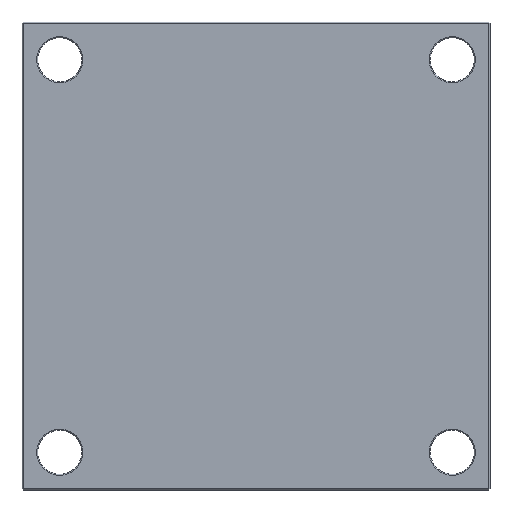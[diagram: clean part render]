
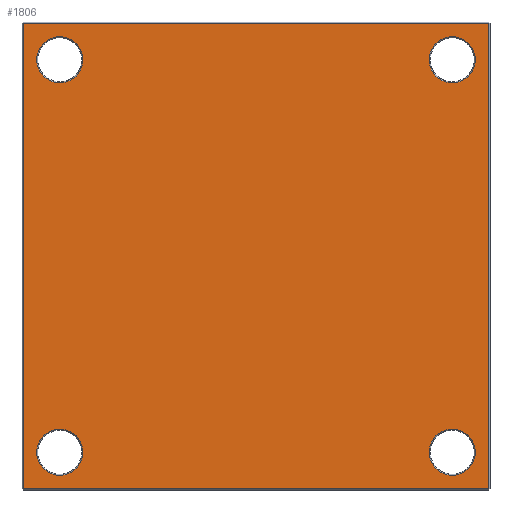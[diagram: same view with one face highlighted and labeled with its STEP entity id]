
A CAD part, front view. The second image highlights one B-rep face of the part: STEP entity #1806.
In plain terms, the highlighted planar face has unit normal (0, -1, 0).
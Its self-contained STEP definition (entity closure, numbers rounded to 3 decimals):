
#64 = AXIS2_PLACEMENT_3D ( 'NONE', #862, #621, #852 ) ;
#83 = EDGE_CURVE ( 'NONE', #1484, #1033, #1691, .T. ) ;
#97 = VERTEX_POINT ( 'NONE', #649 ) ;
#146 = VERTEX_POINT ( 'NONE', #657 ) ;
#198 = DIRECTION ( 'NONE',  ( -1., 0., 0. ) ) ;
#202 = FACE_OUTER_BOUND ( 'NONE', #1394, .T. ) ;
#252 = FACE_BOUND ( 'NONE', #1714, .T. ) ;
#269 = AXIS2_PLACEMENT_3D ( 'NONE', #1925, #848, #1846 ) ;
#271 = VECTOR ( 'NONE', #198, 1000. ) ;
#274 = PLANE ( 'NONE',  #868 ) ;
#289 = CARTESIAN_POINT ( 'NONE',  ( 187., 0., 209. ) ) ;
#301 = DIRECTION ( 'NONE',  ( 1., 0., 0. ) ) ;
#327 = LINE ( 'NONE', #1916, #271 ) ;
#331 = FACE_BOUND ( 'NONE', #543, .T. ) ;
#377 = CARTESIAN_POINT ( 'NONE',  ( 222., 0., 222. ) ) ;
#426 = LINE ( 'NONE', #1108, #474 ) ;
#458 = VERTEX_POINT ( 'NONE', #2173 ) ;
#474 = VECTOR ( 'NONE', #301, 1000. ) ;
#481 = DIRECTION ( 'NONE',  ( 0., 1., 0. ) ) ;
#518 = AXIS2_PLACEMENT_3D ( 'NONE', #978, #1017, #1182 ) ;
#521 = FACE_BOUND ( 'NONE', #2125, .T. ) ;
#543 = EDGE_LOOP ( 'NONE', ( #1034, #850 ) ) ;
#545 = VERTEX_POINT ( 'NONE', #1193 ) ;
#550 = FACE_BOUND ( 'NONE', #1114, .T. ) ;
#570 = CIRCLE ( 'NONE', #885, 22. ) ;
#615 = CARTESIAN_POINT ( 'NONE',  ( 0., 0., 0. ) ) ;
#621 = DIRECTION ( 'NONE',  ( 0., 1., 0. ) ) ;
#625 = ORIENTED_EDGE ( 'NONE', *, *, #1703, .T. ) ;
#649 = CARTESIAN_POINT ( 'NONE',  ( -187., 0., -209. ) ) ;
#657 = CARTESIAN_POINT ( 'NONE',  ( 187., 0., 165. ) ) ;
#668 = ORIENTED_EDGE ( 'NONE', *, *, #1999, .T. ) ;
#684 = AXIS2_PLACEMENT_3D ( 'NONE', #891, #481, #1127 ) ;
#715 = LINE ( 'NONE', #1505, #1063 ) ;
#749 = CIRCLE ( 'NONE', #684, 22. ) ;
#764 = VERTEX_POINT ( 'NONE', #377 ) ;
#778 = CIRCLE ( 'NONE', #64, 22. ) ;
#785 = DIRECTION ( 'NONE',  ( 0., 1., 0. ) ) ;
#848 = DIRECTION ( 'NONE',  ( 0., 1., 0. ) ) ;
#850 = ORIENTED_EDGE ( 'NONE', *, *, #1515, .T. ) ;
#852 = DIRECTION ( 'NONE',  ( 0., 0., 1. ) ) ;
#862 = CARTESIAN_POINT ( 'NONE',  ( -187., 0., -187. ) ) ;
#868 = AXIS2_PLACEMENT_3D ( 'NONE', #615, #1311, #2046 ) ;
#885 = AXIS2_PLACEMENT_3D ( 'NONE', #998, #785, #1174 ) ;
#891 = CARTESIAN_POINT ( 'NONE',  ( -187., 0., 187. ) ) ;
#978 = CARTESIAN_POINT ( 'NONE',  ( 187., 0., -187. ) ) ;
#998 = CARTESIAN_POINT ( 'NONE',  ( 187., 0., 187. ) ) ;
#1008 = CARTESIAN_POINT ( 'NONE',  ( 187., 0., -165. ) ) ;
#1017 = DIRECTION ( 'NONE',  ( 0., 1., 0. ) ) ;
#1021 = ORIENTED_EDGE ( 'NONE', *, *, #1991, .T. ) ;
#1033 = VERTEX_POINT ( 'NONE', #1730 ) ;
#1034 = ORIENTED_EDGE ( 'NONE', *, *, #1814, .T. ) ;
#1049 = EDGE_CURVE ( 'NONE', #97, #1808, #1102, .T. ) ;
#1063 = VECTOR ( 'NONE', #1634, 1000. ) ;
#1066 = CARTESIAN_POINT ( 'NONE',  ( -187., 0., 165. ) ) ;
#1102 = CIRCLE ( 'NONE', #269, 22. ) ;
#1108 = CARTESIAN_POINT ( 'NONE',  ( 0., 0., -222. ) ) ;
#1114 = EDGE_LOOP ( 'NONE', ( #668, #1329 ) ) ;
#1124 = VERTEX_POINT ( 'NONE', #289 ) ;
#1127 = DIRECTION ( 'NONE',  ( 0., 0., 1. ) ) ;
#1128 = ORIENTED_EDGE ( 'NONE', *, *, #83, .T. ) ;
#1136 = ORIENTED_EDGE ( 'NONE', *, *, #1692, .T. ) ;
#1144 = AXIS2_PLACEMENT_3D ( 'NONE', #1726, #1735, #1752 ) ;
#1174 = DIRECTION ( 'NONE',  ( 0., 0., 1. ) ) ;
#1176 = CIRCLE ( 'NONE', #1467, 22. ) ;
#1182 = DIRECTION ( 'NONE',  ( 0., 0., 1. ) ) ;
#1193 = CARTESIAN_POINT ( 'NONE',  ( 222., 0., -222. ) ) ;
#1207 = CARTESIAN_POINT ( 'NONE',  ( 187., 0., -209. ) ) ;
#1286 = AXIS2_PLACEMENT_3D ( 'NONE', #1471, #1474, #1479 ) ;
#1290 = CIRCLE ( 'NONE', #1144, 22. ) ;
#1311 = DIRECTION ( 'NONE',  ( 0., 1., 0. ) ) ;
#1329 = ORIENTED_EDGE ( 'NONE', *, *, #1567, .T. ) ;
#1365 = VERTEX_POINT ( 'NONE', #1768 ) ;
#1394 = EDGE_LOOP ( 'NONE', ( #1021, #625, #2076, #1619 ) ) ;
#1467 = AXIS2_PLACEMENT_3D ( 'NONE', #2105, #2079, #2099 ) ;
#1471 = CARTESIAN_POINT ( 'NONE',  ( -187., 0., 187. ) ) ;
#1474 = DIRECTION ( 'NONE',  ( 0., 1., 0. ) ) ;
#1479 = DIRECTION ( 'NONE',  ( 0., 0., 1. ) ) ;
#1484 = VERTEX_POINT ( 'NONE', #1066 ) ;
#1498 = VERTEX_POINT ( 'NONE', #1207 ) ;
#1504 = EDGE_CURVE ( 'NONE', #1808, #97, #778, .T. ) ;
#1505 = CARTESIAN_POINT ( 'NONE',  ( -222., 0., 0. ) ) ;
#1515 = EDGE_CURVE ( 'NONE', #1124, #146, #1176, .T. ) ;
#1529 = VECTOR ( 'NONE', #2162, 1000. ) ;
#1561 = EDGE_CURVE ( 'NONE', #1365, #458, #715, .T. ) ;
#1567 = EDGE_CURVE ( 'NONE', #1640, #1498, #1290, .T. ) ;
#1597 = ORIENTED_EDGE ( 'NONE', *, *, #1049, .T. ) ;
#1619 = ORIENTED_EDGE ( 'NONE', *, *, #1741, .T. ) ;
#1634 = DIRECTION ( 'NONE',  ( 0., 0., -1. ) ) ;
#1640 = VERTEX_POINT ( 'NONE', #1008 ) ;
#1691 = CIRCLE ( 'NONE', #1286, 22. ) ;
#1692 = EDGE_CURVE ( 'NONE', #1033, #1484, #749, .T. ) ;
#1703 = EDGE_CURVE ( 'NONE', #764, #1365, #327, .T. ) ;
#1714 = EDGE_LOOP ( 'NONE', ( #1128, #1136 ) ) ;
#1726 = CARTESIAN_POINT ( 'NONE',  ( 187., 0., -187. ) ) ;
#1730 = CARTESIAN_POINT ( 'NONE',  ( -187., 0., 209. ) ) ;
#1735 = DIRECTION ( 'NONE',  ( 0., 1., 0. ) ) ;
#1741 = EDGE_CURVE ( 'NONE', #458, #545, #426, .T. ) ;
#1752 = DIRECTION ( 'NONE',  ( 0., 0., 1. ) ) ;
#1768 = CARTESIAN_POINT ( 'NONE',  ( -222., 0., 222. ) ) ;
#1806 = ADVANCED_FACE ( 'NONE', ( #521, #550, #331, #252, #202 ), #274, .F. ) ;
#1808 = VERTEX_POINT ( 'NONE', #2155 ) ;
#1814 = EDGE_CURVE ( 'NONE', #146, #1124, #570, .T. ) ;
#1846 = DIRECTION ( 'NONE',  ( 0., 0., 1. ) ) ;
#1869 = ORIENTED_EDGE ( 'NONE', *, *, #1504, .T. ) ;
#1916 = CARTESIAN_POINT ( 'NONE',  ( 0., 0., 222. ) ) ;
#1925 = CARTESIAN_POINT ( 'NONE',  ( -187., 0., -187. ) ) ;
#1932 = LINE ( 'NONE', #2091, #1529 ) ;
#1991 = EDGE_CURVE ( 'NONE', #545, #764, #1932, .T. ) ;
#1999 = EDGE_CURVE ( 'NONE', #1498, #1640, #2049, .T. ) ;
#2046 = DIRECTION ( 'NONE',  ( 0., 0., 1. ) ) ;
#2049 = CIRCLE ( 'NONE', #518, 22. ) ;
#2076 = ORIENTED_EDGE ( 'NONE', *, *, #1561, .T. ) ;
#2079 = DIRECTION ( 'NONE',  ( 0., 1., 0. ) ) ;
#2091 = CARTESIAN_POINT ( 'NONE',  ( 222., 0., 0. ) ) ;
#2099 = DIRECTION ( 'NONE',  ( 0., 0., 1. ) ) ;
#2105 = CARTESIAN_POINT ( 'NONE',  ( 187., 0., 187. ) ) ;
#2125 = EDGE_LOOP ( 'NONE', ( #1597, #1869 ) ) ;
#2155 = CARTESIAN_POINT ( 'NONE',  ( -187., 0., -165. ) ) ;
#2162 = DIRECTION ( 'NONE',  ( 0., 0., 1. ) ) ;
#2173 = CARTESIAN_POINT ( 'NONE',  ( -222., 0., -222. ) ) ;
